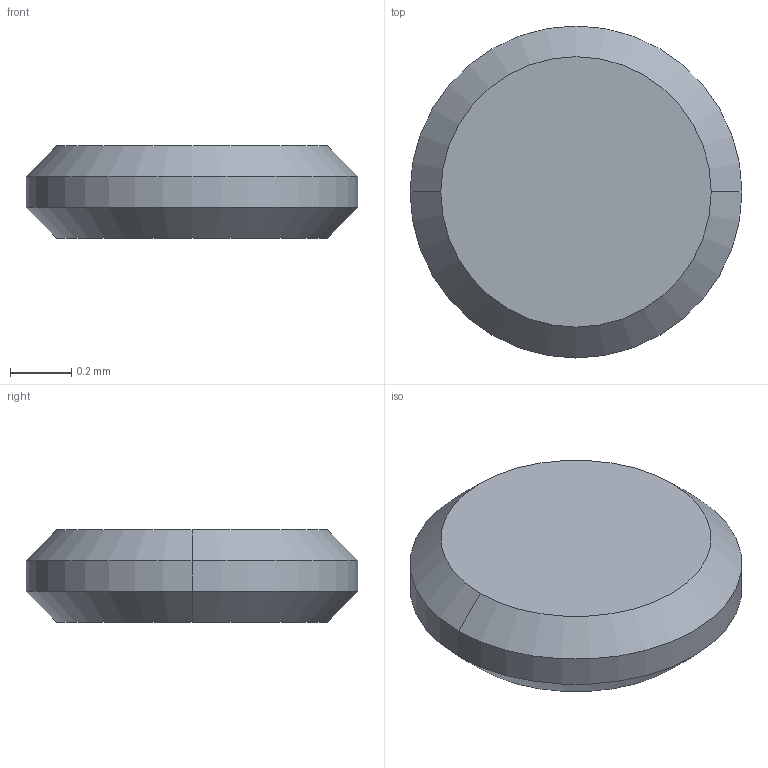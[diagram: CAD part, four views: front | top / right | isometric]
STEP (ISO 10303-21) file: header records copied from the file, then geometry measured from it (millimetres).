
FILE_DESCRIPTION((''),'2;1');
FILE_NAME('PAD__W___ANY_PRT','2008-06-30T',('GRA'),(''),'PRO/ENGINEER BY PARAMETRIC TECHNOLOGY CORPORATION, 2006170','PRO/ENGINEER BY PARAMETRIC TECHNOLOGY CORPORATION, 2006170','');
FILE_SCHEMA(('CONFIG_CONTROL_DESIGN'));
Length unit declared in the file: millimetre
Products named in the file (1): PAD__W___ANY_PRT
Bounding box: 1.08 x 1.08 x 0.3 mm (x, y, z)
Volume: 0.2 mm3; surface area: 2.4 mm2
Topology: 1 solids, 1 shells, 8 faces, 14 edges, 8 vertices
Faces by surface type: cone 4, plane 2, cylinder 2
Entity records: 232 total; most frequent: DIRECTION 38, CARTESIAN_POINT 30, ORIENTED_EDGE 28, AXIS2_PLACEMENT_3D 16, EDGE_CURVE 14, VERTEX_POINT 8, EDGE_LOOP 8, FACE_OUTER_BOUND 8
